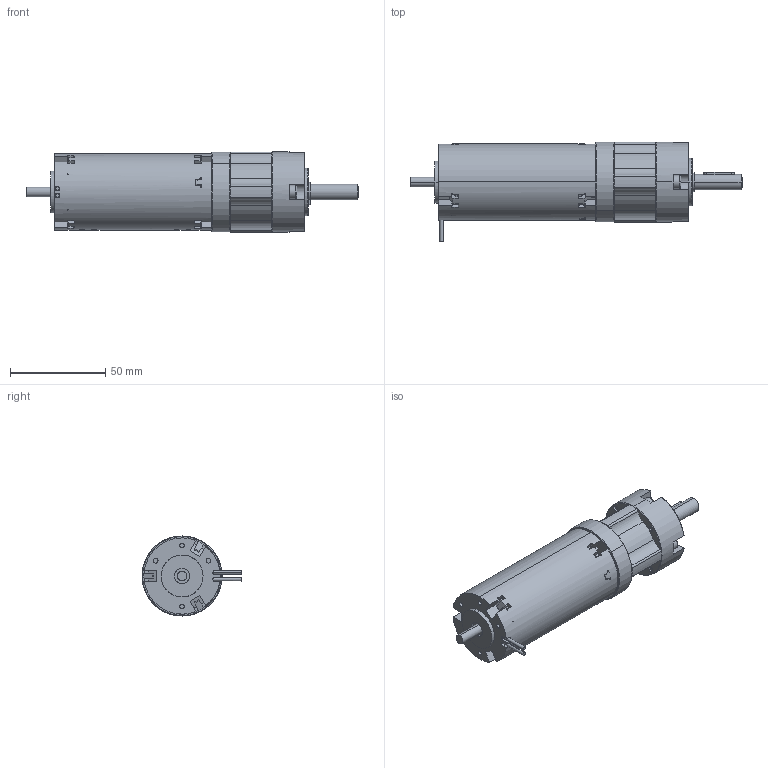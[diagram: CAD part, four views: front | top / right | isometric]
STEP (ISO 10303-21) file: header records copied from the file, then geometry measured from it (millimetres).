
FILE_DESCRIPTION (( 'STEP AP214' ), '1' );
FILE_NAME ('1.13.049_+_PK42-1etage.STEP', '2014-09-22T14:51:31', ( '' ), ( '' ), 'SwSTEP 2.0', 'SolidWorks 2013', '' );
FILE_SCHEMA (( 'AUTOMOTIVE_DESIGN' ));
Length unit declared in the file: millimetre
Products named in the file (18): 8001289_ZAHNKRANZ_1ST_1; 3X3X16_D6885A_16; D471_8X0_8_16; 8002388_ABTRIEB_LK2_KPL_1; 8001305_LAGERBOLZEN_16; VBZ_K7841_ABTRIEB_AF0_16; DIN998_PS_8X14X1_16; 1203251_1; 8001301_LAGERFLANSCH__1; 1.13.049.401_3; 1.13.049_+_PK42-1etage; bmz_1228382_1; D912_M3X8_11; 8006286_MOTORRITZEL_Z17_3; 8001288_ANLAUFSCHEIBE_1ST_14; MOTORFLANSCH_1226212_1; D912_M4X35_1
Assembly tree (25 placements, depth 4):
  1.13.049_+_PK42-1etage
    1.13.049.401_3
      1.13.049.401_3
    bmz_1228382_1
      8001301_LAGERFLANSCH__1
      1203251_1  x2
      DIN998_PS_8X14X1_16  x2
      8002388_ABTRIEB_LK2_KPL_1
        VBZ_K7841_ABTRIEB_AF0_16
        8001305_LAGERBOLZEN_16  x3
      D471_8X0_8_16
      3X3X16_D6885A_16
      8001289_ZAHNKRANZ_1ST_1
      D912_M4X35_1  x4
      MOTORFLANSCH_1226212_1
      8001288_ANLAUFSCHEIBE_1ST_14
      8006286_MOTORRITZEL_Z17_3
      D912_M3X8_11  x2
Bounding box: 174.2 x 52.44 x 42 mm (x, y, z)
Volume: 12146.7 mm3; surface area: 55225.8 mm2
Topology: 12 solids, 37 shells, 1719 faces, 4705 edges, 3044 vertices
Faces by surface type: cylinder 764, plane 610, cone 270, bspline 75
Entity records: 61218 total; most frequent: CARTESIAN_POINT 15155, ORIENTED_EDGE 8763, DIRECTION 8566, EDGE_CURVE 4406, AXIS2_PLACEMENT_3D 3181, VERTEX_POINT 2864, VECTOR 2204, LINE 2204
